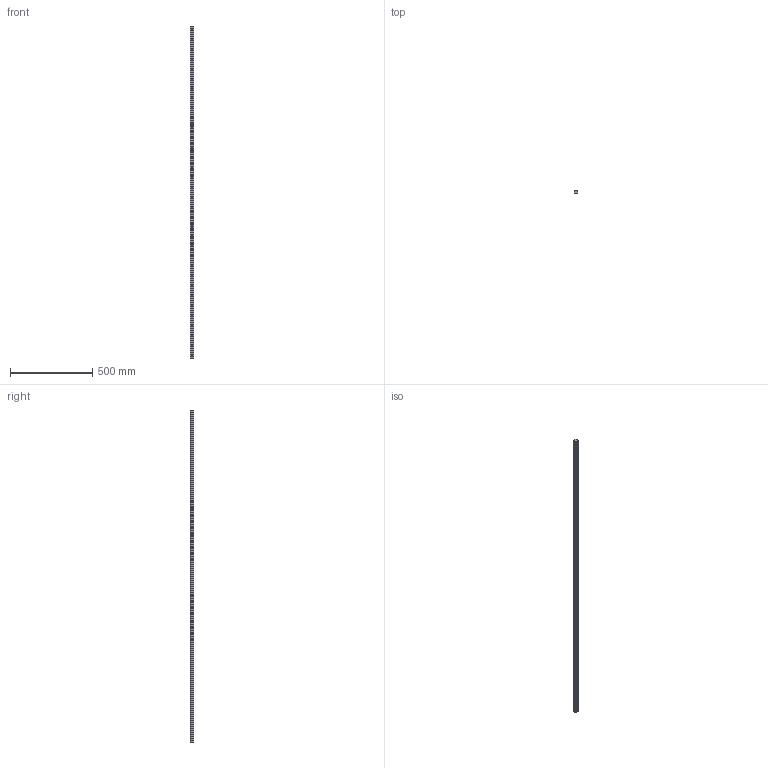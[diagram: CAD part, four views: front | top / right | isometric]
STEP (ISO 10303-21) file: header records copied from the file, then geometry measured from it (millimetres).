
FILE_DESCRIPTION (( 'STEP AP203' ), '1' );
FILE_NAME ('L1016.BL25-2020.step', '2019-06-12T12:09:43', ( '' ), ( '' ), 'SwSTEP 2.0', 'SolidWorks 2017', '' );
FILE_SCHEMA (( 'CONFIG_CONTROL_DESIGN' ));
Length unit declared in the file: millimetre
Products named in the file (1): L1016.BL25-2020
Bounding box: 23 x 19.2 x 2020 mm (x, y, z)
Volume: 744270.3 mm3; surface area: 191417.2 mm2
Topology: 1 solids, 1 shells, 196 faces, 480 edges, 320 vertices
Faces by surface type: cylinder 140, plane 56
Entity records: 6137 total; most frequent: DIRECTION 1154, CARTESIAN_POINT 997, ORIENTED_EDGE 960, EDGE_CURVE 480, AXIS2_PLACEMENT_3D 477, VERTEX_POINT 320, EDGE_LOOP 298, CIRCLE 280
